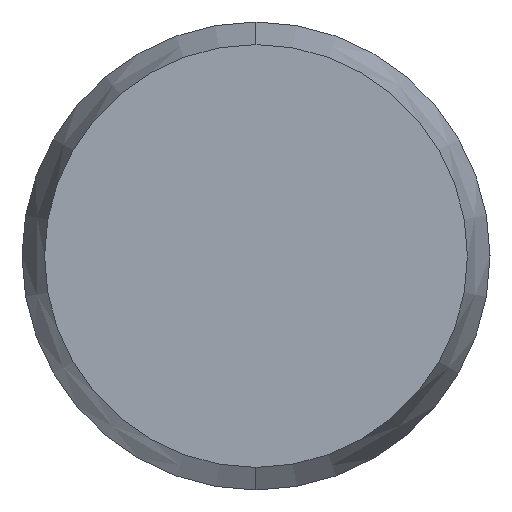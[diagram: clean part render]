
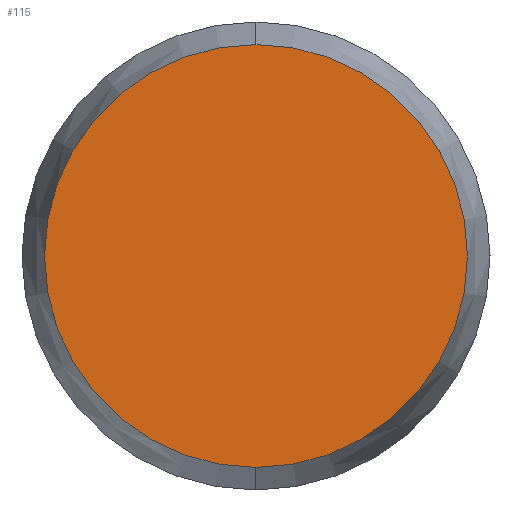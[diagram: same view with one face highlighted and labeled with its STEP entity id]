
A CAD part, left-side view. The second image highlights one B-rep face of the part: STEP entity #115.
In plain terms, the highlighted planar face has unit normal (-1, 0, 0).
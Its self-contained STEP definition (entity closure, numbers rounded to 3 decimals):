
#51 = DIRECTION ( 'NONE',  ( 1., 0., 0. ) ) ;
#52 = AXIS2_PLACEMENT_3D ( 'NONE', #57, #51, #194 ) ;
#53 = CIRCLE ( 'NONE', #52, 1.129 ) ;
#54 = DIRECTION ( 'NONE',  ( 0., 0., -1. ) ) ;
#55 = DIRECTION ( 'NONE',  ( 1., 0., 0. ) ) ;
#56 = CARTESIAN_POINT ( 'NONE',  ( -14., 0., 0. ) ) ;
#57 = CARTESIAN_POINT ( 'NONE',  ( -14., 0., 0. ) ) ;
#58 = AXIS2_PLACEMENT_3D ( 'NONE', #56, #55, #54 ) ;
#59 = PLANE ( 'NONE',  #58 ) ;
#60 = FACE_OUTER_BOUND ( 'NONE', #116, .T. ) ;
#100 = CARTESIAN_POINT ( 'NONE',  ( -14., 0., -1.129 ) ) ;
#101 = CARTESIAN_POINT ( 'NONE',  ( -14., 0., 1.129 ) ) ;
#102 = DIRECTION ( 'NONE',  ( 0., 0., -1. ) ) ;
#103 = DIRECTION ( 'NONE',  ( 1., 0., 0. ) ) ;
#104 = CARTESIAN_POINT ( 'NONE',  ( -14., 0., 0. ) ) ;
#105 = AXIS2_PLACEMENT_3D ( 'NONE', #104, #103, #102 ) ;
#111 = CIRCLE ( 'NONE', #105, 1.129 ) ;
#115 = ADVANCED_FACE ( 'NONE', ( #60 ), #59, .F. ) ;
#116 = EDGE_LOOP ( 'NONE', ( #117, #118 ) ) ;
#117 = ORIENTED_EDGE ( 'NONE', *, *, #138, .F. ) ;
#118 = ORIENTED_EDGE ( 'NONE', *, *, #121, .F. ) ;
#121 = EDGE_CURVE ( 'NONE', #140, #139, #53, .T. ) ;
#138 = EDGE_CURVE ( 'NONE', #139, #140, #111, .T. ) ;
#139 = VERTEX_POINT ( 'NONE', #101 ) ;
#140 = VERTEX_POINT ( 'NONE', #100 ) ;
#194 = DIRECTION ( 'NONE',  ( 0., 0., -1. ) ) ;
